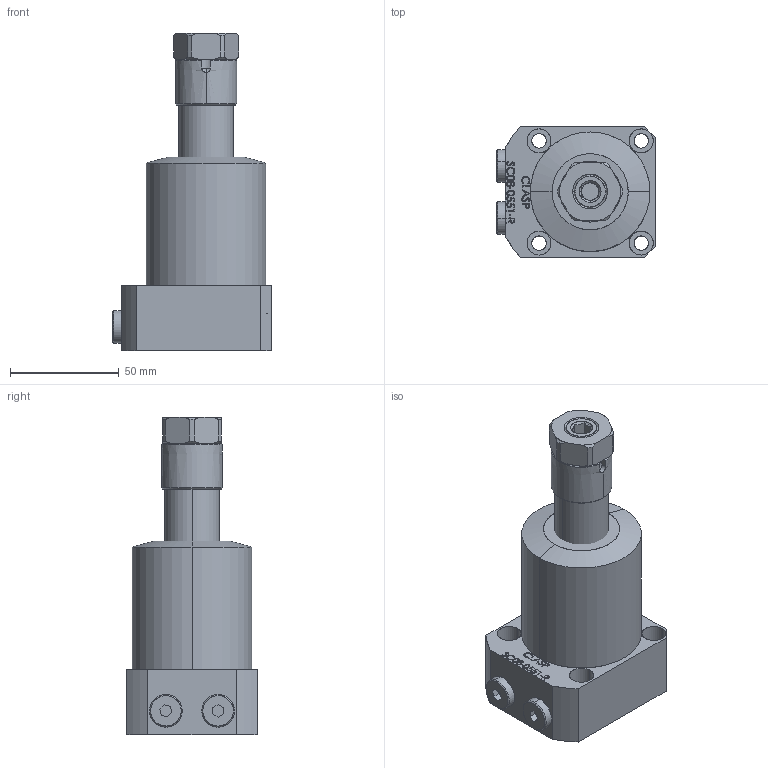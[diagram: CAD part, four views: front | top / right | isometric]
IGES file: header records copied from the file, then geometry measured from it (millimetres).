
Start section: SolidWorks IGES file using analytic representation for surfaces
Global section: file name: D:\karuppas\Clasp\3D model\SWING CYLINDER\bottom mounting swing cylinder\SC08-0551-R\SC08-0551-R.IGS; native system: SolidWorks 2017; preprocessor: SolidWorks 2017; author: pc; date: 220708.224829; units: millimetre
Bounding box: 73 x 60 x 146 mm (x, y, z)
Surface area: 44503.4 mm2 (no closed solid volume)
Topology: 0 solids, 0 shells, 377 faces, 5845 edges, 5844 vertices
Faces by surface type: bspline 272, revolution 105
